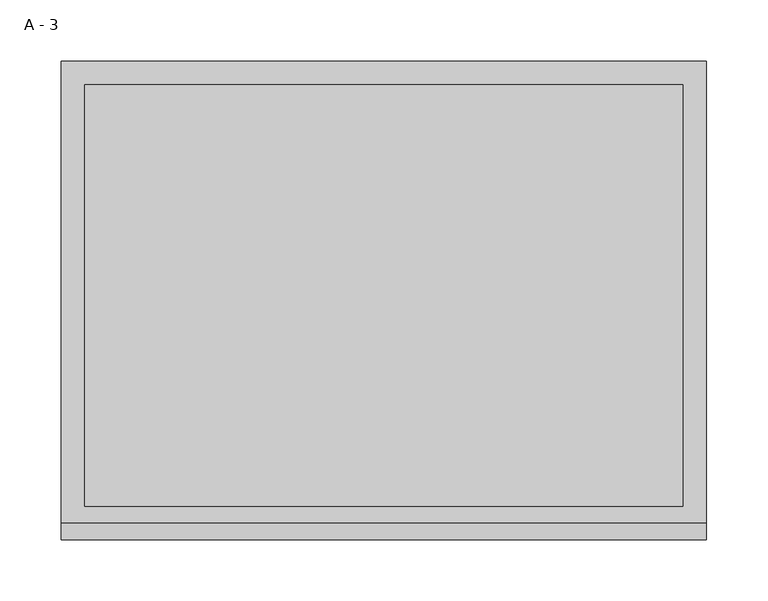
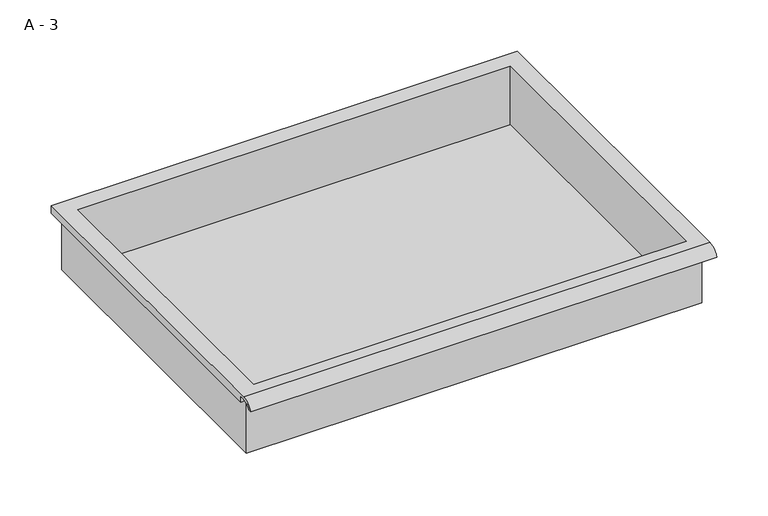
"""IFC4 building model written with IfcOpenShell, lengths in millimetres: furniture geometry, HermanMiller_CoStruc_CO207_Drawer : A - 3."""

from ifc_helpers import new_model, si_unit, frame, origin, place, context, project, spatial, polyline, circle_curve, source, transform, mapped, element, save
from ifc_brep_helpers import plane_surface, cylinder_surface, revolved_surface, advanced_brep


def a_3_9c7b58b7(model_context):
    return source(origin(), model_context, "Body", "AdvancedBrep", [
        advanced_brep(
        [(-257.1076517, -176.2125, 1066.8), (257.2423483, -176.2125, 1066.8), (257.2423483, -176.2125, 1130.3), (263.5923483, -176.2125, 1130.3), (263.5923483, -176.2125, 1136.6071341), (-263.4576517, -176.2125, 1136.6071341), (-263.4576517, -176.2125, 1130.3), (-257.1076517, -176.2125, 1130.3), (257.2423483, 185.7375, 1066.8), (-257.1076517, 185.7375, 1066.8), (-257.1076517, 185.7375, 1130.3), (257.2423483, 185.7375, 1130.3), (263.5923483, -181.6070544, 1139.825), (263.5923483, 195.2625, 1139.825), (-263.4576517, 195.2625, 1139.825), (-263.4576517, -181.6070544, 1139.825), (244.5423483, -168.275, 1139.825), (-244.4076517, -168.275, 1139.825), (-244.4076517, 176.2125, 1139.825), (244.5423483, 176.2125, 1139.825), (263.5923483, -195.2625, 1130.3), (263.5923483, -191.8280601, 1130.3), (263.5923483, -180.4714815, 1136.6071341), (263.5923483, 195.2625, 1130.3), (-263.4576517, 195.2625, 1130.3), (-263.4576517, -180.4714815, 1136.6071341), (-263.4576517, -191.8280601, 1130.3), (-263.4576517, -195.2625, 1130.3), (-244.4076517, -168.275, 1069.8261719), (244.5423483, -168.275, 1069.8261719), (244.5423483, 176.2125, 1069.8261719), (-244.4076517, 176.2125, 1069.8261719)],
        [
            (0, 1),
            (1, 2),
            (2, 3),
            (3, 4),
            (4, 5),
            (5, 6),
            (6, 7),
            (7, 0),
            (8, 9),
            (9, 10),
            (10, 11),
            (11, 8),
            (0, 9),
            (8, 1),
            (11, 2),
            (12, 13),
            (13, 14),
            (14, 15),
            (15, 12),
            (16, 17),
            (17, 18),
            (18, 19),
            (19, 16),
            (7, 10),
            (12, 20, circle_curve(frame((263.5923483, -181.6070544, 1125.2739859), z_axis=(1.0, 0.0, 0.0), x_axis=(0.0, 1.0, 0.0)), 14.5510141)),
            (20, 21),
            (21, 22, circle_curve(frame((263.5923483, -181.6070544, 1125.2739859), z_axis=(-1.0, 0.0, 0.0), x_axis=(0.0, 1.0, 0.0)), 11.3898979)),
            (22, 4),
            (3, 23),
            (23, 13),
            (14, 24),
            (24, 6),
            (5, 25),
            (25, 26, circle_curve(frame((-263.4576517, -181.6070544, 1125.2739859), z_axis=(1.0, 0.0, 0.0), x_axis=(0.0, 1.0, 0.0)), 11.3898979)),
            (26, 27),
            (27, 15, circle_curve(frame((-263.4576517, -181.6070544, 1125.2739859), z_axis=(-1.0, 0.0, 0.0), x_axis=(0.0, 1.0, 0.0)), 14.5510141)),
            (27, 20),
            (26, 21),
            (25, 22),
            (24, 23),
            (28, 29),
            (29, 30),
            (30, 31),
            (31, 28),
            (28, 17),
            (16, 29),
            (19, 30),
            (18, 31),
        ],
        [
            plane_surface(frame((257.2423483, -176.2125, 1066.8), z_axis=(0.0, -1.0, 0.0), x_axis=(1.0, 0.0, 0.0))),
            plane_surface(frame((257.2423483, 185.7375, 1066.8), z_axis=(0.0, 1.0, 0.0), x_axis=(-1.0, 0.0, 0.0))),
            plane_surface(frame((-257.1076517, -176.2125, 1066.8), z_axis=(0.0, 0.0, -1.0), x_axis=(0.0, 1.0, 0.0))),
            plane_surface(frame((257.2423483, -176.2125, 1066.8), z_axis=(1.0, 0.0, 0.0), x_axis=(0.0, 1.0, 0.0))),
            plane_surface(frame((257.2423483, -176.2125, 1139.825), z_axis=(0.0, 0.0, 1.0), x_axis=(0.0, 1.0, 0.0))),
            plane_surface(frame((-257.1076517, -176.2125, 1139.825), z_axis=(-1.0, 0.0, 0.0), x_axis=(0.0, 1.0, 0.0))),
            plane_surface(frame((263.5923483, 195.2625, 1139.825), z_axis=(1.0, 0.0, 0.0), x_axis=(0.0, -1.0, 0.0))),
            plane_surface(frame((-263.4576517, 195.2625, 1139.825), z_axis=(-1.0, 0.0, 0.0), x_axis=(0.0, 1.0, 0.0))),
            cylinder_surface(frame((-263.4576517, -181.6070544, 1125.2739859), z_axis=(1.0, 0.0, 0.0), x_axis=(0.0, 1.0, 0.0)), 14.5510141),
            plane_surface(frame((263.5923483, -195.2625, 1130.3), z_axis=(0.0, -7.133584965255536e-12, -1.0), x_axis=(-1.0, 0.0, 0.0))),
            revolved_surface(polyline([(-263.4576517, -170.21715650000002, 1125.2739859), (263.59234829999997, -170.21715650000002, 1125.2739859)]), (-263.4576517, -181.6070544, 1125.2739859), (-1.0, 0.0, 0.0)),
            plane_surface(frame((263.5923483, -180.4714815, 1136.6071341), z_axis=(0.0, -1.7670719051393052e-11, -1.0), x_axis=(-1.0, 0.0, 0.0))),
            plane_surface(frame((263.5923483, -176.2125, 1130.3), z_axis=(0.0, 0.0, -1.0), x_axis=(-1.0, 0.0, 0.0))),
            plane_surface(frame((263.5923483, 195.2625, 1130.3), z_axis=(0.0, 1.0, 0.0), x_axis=(-1.0, 0.0, 0.0))),
            plane_surface(frame((244.5423483, -168.275, 1069.8261719), z_axis=(0.0, 0.0, 1.0), x_axis=(-1.0, 0.0, 0.0))),
            plane_surface(frame((-244.4076517, -168.275, 1139.825), z_axis=(0.0, 1.0, 0.0), x_axis=(0.0, 0.0, -1.0))),
            plane_surface(frame((244.5423483, -168.275, 1139.825), z_axis=(-1.0, 0.0, 0.0), x_axis=(0.0, 0.0, -1.0))),
            plane_surface(frame((244.5423483, 176.2125, 1139.825), z_axis=(0.0, -1.0, 0.0), x_axis=(0.0, 0.0, -1.0))),
            plane_surface(frame((-244.4076517, 176.2125, 1139.825), z_axis=(1.0, 0.0, 0.0), x_axis=(0.0, 0.0, -1.0))),
        ],
        [
            (0, [[1, 2, 3, 4, 5, 6, 7, 8]]),
            (1, [[9, 10, 11, 12]]),
            (2, [[-1, 13, -9, 14]]),
            (3, [[-14, -12, 15, -2]]),
            (4, [[16, 17, 18, 19], [20, 21, 22, 23]]),
            (5, [[-13, -8, 24, -10]]),
            (6, [[-16, 25, 26, 27, 28, -4, 29, 30]]),
            (7, [[31, 32, -6, 33, 34, 35, 36, -18]]),
            (8, [[-25, -19, -36, 37]]),
            (9, [[-26, -37, -35, 38]]),
            (10, [[-27, -38, -34, 39]]),
            (11, [[-28, -39, -33, -5]]),
            (12, [[-29, -3, -15, -11, -24, -7, -32, 40]]),
            (13, [[-30, -40, -31, -17]]),
            (14, [[41, 42, 43, 44]]),
            (15, [[-41, 45, -20, 46]]),
            (16, [[-42, -46, -23, 47]]),
            (17, [[-43, -47, -22, 48]]),
            (18, [[-44, -48, -21, -45]]),
        ],
    ),
    ])


if __name__ == "__main__":
    model = new_model("IFC4")
    model_context = context("Model", 3, world=origin())
    ifc_project = project(units=[si_unit("LENGTHUNIT", "METRE", prefix="MILLI")], contexts=[model_context])
    site = spatial("IfcSite", under=ifc_project)
    building = spatial("IfcBuilding", under=site)
    placement = place(None, origin())
    a_3_shape = a_3_9c7b58b7(model_context)
    element("IfcFurniture", 1, ObjectType="HermanMiller_CoStruc_CO207_Drawer : A - 3", at=placement, inside=building, context=model_context, shape_type="MappedRepresentation", body=[
        mapped(a_3_shape, transform((0.0, 0.0, 0.0), x_axis=(1.0, 0.0, 0.0), y_axis=(0.0, 1.0, 0.0), z_axis=(0.0, 0.0, 1.0))),
    ])
    save(model, "model.ifc")
